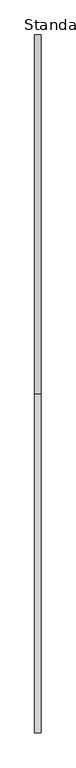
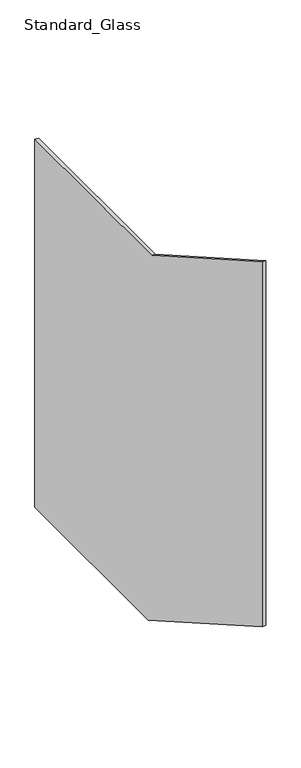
"""IFC4 building model written with IfcOpenShell, lengths in millimetres: railing geometry, Baluster-Landing-Panel-VIVA-VISIO-Upper : Standard_Glass."""

import ifcopenshell
import ifcopenshell.guid

model = None  # the IFC model being written
_history = None  # IfcOwnerHistory: only IFC2X3 demands one
_inside = {}  # id of a spatial element -> (the spatial element, [elements in it])
_under = {}  # id of a project, library or spatial element -> (it, [spatial elements below it])
_declared = {}  # id of a project -> (the project, [libraries it declares])
_typed = {}  # id of a type object -> (the type object, [elements of that type])
_made_of = {}  # id of a material, layer set ... -> (it, [elements and type objects made of it])


def new_model(schema):
    """Start an empty IFC model of exactly this schema.

    Asked for "IFC4X3", IfcOpenShell would pick the latest addendum, in which some entities
    have other attributes; the version numbers below select the first issue.
    IFC2X3 requires an IfcOwnerHistory on every rooted entity: one is made here for all.
    """
    global model, _history
    if schema == "IFC4X3":
        model = ifcopenshell.file(schema_version=(4, 3, 0, 0))
    else:
        model = ifcopenshell.file(schema=schema)
    _inside.clear()
    _under.clear()
    _declared.clear()
    _typed.clear()
    _made_of.clear()
    _history = None
    if model.schema == "IFC2X3":
        org = make("IfcOrganization", Name="unknown")
        user = make(
            "IfcPersonAndOrganization",
            ThePerson=make("IfcPerson", FamilyName="unknown"),
            TheOrganization=org,
        )
        app = make(
            "IfcApplication",
            ApplicationDeveloper=org,
            Version="unknown",
            ApplicationFullName="unknown",
            ApplicationIdentifier="unknown",
        )
        _history = make(
            "IfcOwnerHistory",
            OwningUser=user,
            OwningApplication=app,
            ChangeAction="ADDED",
            CreationDate=0,
        )
    return model


def make(cls, **values):
    """One entity of the class cls with the attributes given. An attribute that is None is left unset."""
    return model.create_entity(
        cls, **{name: value for name, value in values.items() if value is not None}
    )


def rooted(cls, **values):
    """An entity with a GlobalId (a new one), such as an element, a storey or a relation."""
    return make(cls, GlobalId=ifcopenshell.guid.new(), OwnerHistory=_history, **values)


def si_unit(unit_type, name, prefix=None):
    """IfcSIUnit, for example si_unit("LENGTHUNIT", "METRE", prefix="MILLI")."""
    return make("IfcSIUnit", UnitType=unit_type, Prefix=prefix, Name=name)


def assignment(units):
    """IfcUnitAssignment: the units of a project."""
    return None if units is None else make("IfcUnitAssignment", Units=units)


def point(xyz):
    """IfcCartesianPoint."""
    return None if xyz is None else make("IfcCartesianPoint", Coordinates=xyz)


def direction(xyz):
    """IfcDirection."""
    return None if xyz is None else make("IfcDirection", DirectionRatios=xyz)


def frame(location, z_axis=None, x_axis=None):
    """IfcAxis2Placement3D, a coordinate frame: its origin and axes. An axis left out is left unset."""
    return make(
        "IfcAxis2Placement3D",
        Location=point(location),
        Axis=direction(z_axis),
        RefDirection=direction(x_axis),
    )


def origin():
    """The frame at (0, 0, 0) with its axes left unset."""
    return frame((0.0, 0.0, 0.0))


def place(relative_to, where):
    """IfcLocalPlacement: puts the frame where relative to a parent placement (None: the world)."""
    return make(
        "IfcLocalPlacement", PlacementRelTo=relative_to, RelativePlacement=where
    )


def context(
    kind, dimensions, precision=None, world=None, true_north=None, identifier=None
):
    """IfcGeometricRepresentationContext, for example the 3D "Model" context."""
    return make(
        "IfcGeometricRepresentationContext",
        ContextIdentifier=identifier,
        ContextType=kind,
        CoordinateSpaceDimension=dimensions,
        Precision=precision,
        WorldCoordinateSystem=world,
        TrueNorth=true_north,
    )


def project(units=None, contexts=None):
    """IfcProject with its units and contexts."""
    return rooted(
        "IfcProject",
        Name="project",
        RepresentationContexts=contexts,
        UnitsInContext=assignment(units),
    )


def spatial(cls, under=None, at=None, **own):
    """A site, building, storey or space (cls), placed at a placement, below another one or the project."""
    s = rooted(cls, ObjectPlacement=at, **own)
    if under is not None:
        _under.setdefault(under.id(), (under, []))[1].append(s)
    return s


def polyline(points):
    """IfcPolyline through the points."""
    return make("IfcPolyline", Points=[point(p) for p in points])


def outline(outer, holes=None, kind="AREA"):
    """IfcArbitraryClosedProfileDef: a profile drawn as a closed curve; with holes, ...WithVoids."""
    if holes is None:
        return make("IfcArbitraryClosedProfileDef", ProfileType=kind, OuterCurve=outer)
    return make(
        "IfcArbitraryProfileDefWithVoids",
        ProfileType=kind,
        OuterCurve=outer,
        InnerCurves=holes,
    )


def extrude(swept, where, along, depth):
    """IfcExtrudedAreaSolid: the profile swept, set in the frame where, extruded along a direction by depth."""
    return make(
        "IfcExtrudedAreaSolid",
        SweptArea=swept,
        Position=where,
        ExtrudedDirection=direction(along),
        Depth=depth,
    )


def shape(context_of_items, identifier, shape_type, items):
    """IfcShapeRepresentation: the items that make up one representation, for example the "Body"."""
    return make(
        "IfcShapeRepresentation",
        ContextOfItems=context_of_items,
        RepresentationIdentifier=identifier,
        RepresentationType=shape_type,
        Items=items,
    )


def source(mapping_origin, context_of_items, identifier, shape_type, items):
    """IfcRepresentationMap: a shape defined once, which mapped items show again and again."""
    return make(
        "IfcRepresentationMap",
        MappingOrigin=mapping_origin,
        MappedRepresentation=shape(context_of_items, identifier, shape_type, items),
    )


def transform(
    local_origin,
    x_axis=None,
    y_axis=None,
    z_axis=None,
    scale=None,
    scale2=None,
    scale3=None,
    uniform=True,
):
    """IfcCartesianTransformationOperator3D, or its non-uniform kind. x_axis, y_axis, z_axis: its Axis1, 2, 3."""
    if uniform:
        return make(
            "IfcCartesianTransformationOperator3D",
            Axis1=direction(x_axis),
            Axis2=direction(y_axis),
            LocalOrigin=point(local_origin),
            Scale=scale,
            Axis3=direction(z_axis),
        )
    return make(
        "IfcCartesianTransformationOperator3DnonUniform",
        Axis1=direction(x_axis),
        Axis2=direction(y_axis),
        LocalOrigin=point(local_origin),
        Scale=scale,
        Axis3=direction(z_axis),
        Scale2=scale2,
        Scale3=scale3,
    )


def mapped(mapping_source, mapping_target):
    """IfcMappedItem: shows the shape of a source again, moved by a transform."""
    return make(
        "IfcMappedItem", MappingSource=mapping_source, MappingTarget=mapping_target
    )


def made_of(thing, what):
    """Note that an element or type object is made of a material, layer set ...; save() writes the relation."""
    if what is not None:
        _made_of.setdefault(what.id(), (what, []))[1].append(thing)
    return thing


def element(
    cls,
    number,
    at=None,
    inside=None,
    cuts=None,
    type_object=None,
    material=None,
    context=None,
    identifier="Body",
    shape_type=None,
    held_by="IfcProductDefinitionShape",
    body=None,
    shapes=None,
    **own,
):
    """One element of the class cls, such as IfcWall. Its Tag is "e" and its number.

    at: its placement. inside: the storey or other place that contains it. cuts: it is an
    opening in that element (IfcRelVoidsElement). A single representation is given by context,
    identifier, shape_type and body (its items); several are given by shapes. held_by: the class
    of the entity that holds the representations. save() writes the other relations.
    """
    e = rooted(cls, Tag="e%d" % number, ObjectPlacement=at, **own)
    if body is not None:
        shapes = [shape(context, identifier, shape_type, body)]
    if shapes is not None:
        e.Representation = make(held_by, Representations=shapes)
    if inside is not None:
        _inside.setdefault(inside.id(), (inside, []))[1].append(e)
    if cuts is not None:
        rooted(
            "IfcRelVoidsElement", RelatingBuildingElement=cuts, RelatedOpeningElement=e
        )
    if type_object is not None:
        _typed.setdefault(type_object.id(), (type_object, []))[1].append(e)
    return made_of(e, material)


def aggregate(whole, parts):
    """IfcRelAggregates: a whole, such as a stair, and the parts it consists of."""
    return rooted("IfcRelAggregates", RelatingObject=whole, RelatedObjects=parts)


def save(model, path):
    """Write the relations noted so far, then the file.

    IfcRelAggregates (storeys below a building ...), IfcRelContainedInSpatialStructure (elements
    in a storey), IfcRelDefinesByType, IfcRelAssociatesMaterial and IfcRelDeclares: one each for
    every whole, place, type object, material and project.
    """
    for whole, parts in _under.values():
        aggregate(whole, parts)
    for where, things in _inside.values():
        rooted(
            "IfcRelContainedInSpatialStructure",
            RelatedElements=things,
            RelatingStructure=where,
        )
    for kind, things in _typed.values():
        rooted("IfcRelDefinesByType", RelatedObjects=things, RelatingType=kind)
    for what, things in _made_of.values():
        rooted("IfcRelAssociatesMaterial", RelatedObjects=things, RelatingMaterial=what)
    for by, libraries in _declared.values():
        rooted("IfcRelDeclares", RelatingContext=by, RelatedDefinitions=libraries)
    model.write(path)


def standard_glass_ea82125f(model_context):
    return source(origin(), model_context, "Body", "SweptSolid", [
        extrude(outline(polyline([(492.404401, 1086.485), (1012.825, 1086.485), (1012.825, 84.6584136), (507.1410704, 84.6584136), (0.0, 374.396), (0.0, 1367.8032978), (492.404401, 1086.485)])), frame((31.6077292, 0.0, 0.0), z_axis=(1.0, 0.0, 0.0), x_axis=(0.0, 1.0, 0.0)), (0.0, 0.0, 1.0), 9.525),
    ])


if __name__ == "__main__":
    model = new_model("IFC4")
    model_context = context("Model", 3, world=origin())
    ifc_project = project(units=[si_unit("LENGTHUNIT", "METRE", prefix="MILLI")], contexts=[model_context])
    site = spatial("IfcSite", under=ifc_project)
    building = spatial("IfcBuilding", under=site)
    placement = place(None, origin())
    standard_glass_shape = standard_glass_ea82125f(model_context)
    element("IfcRailing", 1, ObjectType="Baluster-Landing-Panel-VIVA-VISIO-Upper : Standard_Glass", at=placement, inside=building, context=model_context, shape_type="MappedRepresentation", body=[
        mapped(standard_glass_shape, transform((0.0, 0.0, 0.0), x_axis=(1.0, 0.0, 0.0), y_axis=(0.0, 1.0, 0.0), z_axis=(0.0, 0.0, 1.0))),
    ])
    save(model, "model.ifc")
